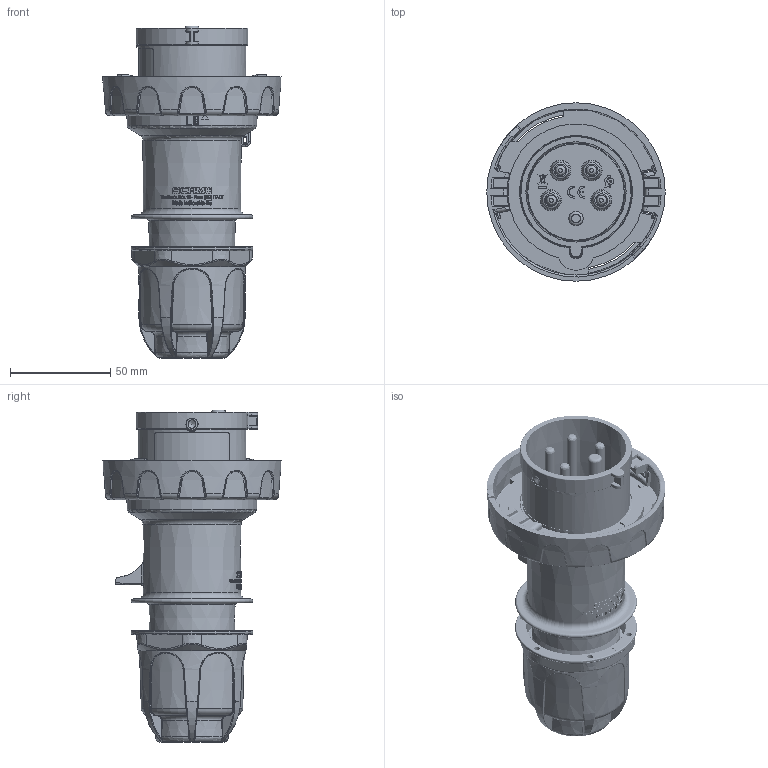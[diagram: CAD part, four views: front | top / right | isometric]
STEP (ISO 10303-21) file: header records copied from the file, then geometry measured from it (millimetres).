
FILE_DESCRIPTION(/* description */ (''),/* implementation_level */ '2;1');
FILE_NAME(/* name */ '4002078.stp',/* time_stamp */ '2023-01-16T08:07:26+01:00',/* author */ (''),/* organization */ (''),/* preprocessor_version */ 'ST-DEVELOPER v18.102',/* originating_system */ 'SIEMENS PLM Software NX2206.8101',/* authorisation */ '');
FILE_SCHEMA (('AUTOMOTIVE_DESIGN { 1 0 10303 214 3 1 1 1 }'));
Products named in the file (1): BSOM4254812Bkh3z
Bounding box: 89 x 89 x 165.5 mm (x, y, z)
Volume: 155249.8 mm3; surface area: 146302.6 mm2
Topology: 15 solids, 17 shells, 4228 faces, 11073 edges, 6984 vertices
Faces by surface type: plane 1470, cylinder 786, bspline 748, extrusion 401, cone 389, torus 346, sphere 84, revolution 4
Full cylindrical faces by diameter (mm): 0.2 x1, 0.4 x1, 1 x1, 3 x5, 3.2 x2, 3.5 x1, 3.6 x5, 4.503 x1, 5 x4, 5.14 x1, 5.2 x4, 5.7 x2, 5.8 x1, 6 x1, 6.4 x4, 7 x1, 7.2 x1, 8 x1, 16 x1, 17.5 x1, 24 x1, 44.4 x1, 45.5 x5, 46.2 x1, 46.8 x1, 49 x1, 53.8 x1, 60.7 x1, 65 x1
Entity records: 499794 total; most frequent: CARTESIAN_POINT 405643, ORIENTED_EDGE 21218, DIRECTION 16742, EDGE_CURVE 10609, VERTEX_POINT 6829, AXIS2_PLACEMENT_3D 6472, EDGE_LOOP 4684, ADVANCED_FACE 4221
